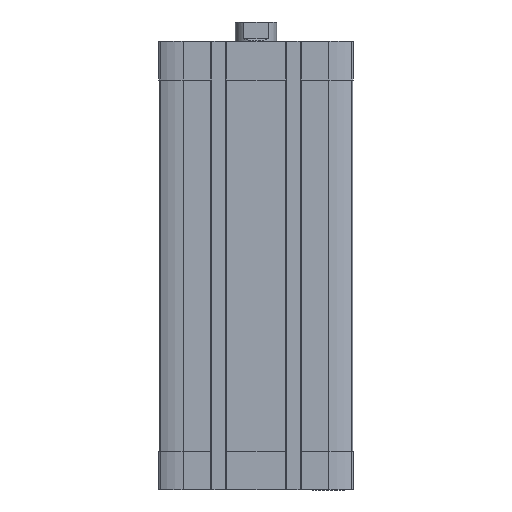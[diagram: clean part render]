
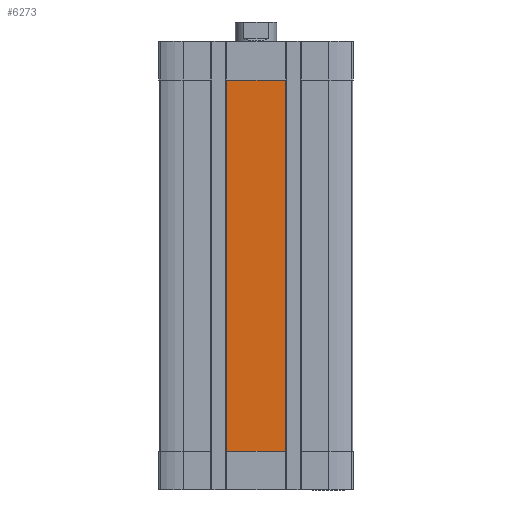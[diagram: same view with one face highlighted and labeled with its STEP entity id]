
A CAD part, front view. The second image highlights one B-rep face of the part: STEP entity #6273.
In plain terms, the highlighted planar face has unit normal (0, -1, 0).
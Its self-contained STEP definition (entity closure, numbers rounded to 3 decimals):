
#404 = VERTEX_POINT ( 'NONE', #6560 ) ;
#469 = EDGE_CURVE ( 'NONE', #1246, #404, #8658, .T. ) ;
#747 = FACE_OUTER_BOUND ( 'NONE', #7086, .T. ) ;
#1056 = ORIENTED_EDGE ( 'NONE', *, *, #9462, .T. ) ;
#1118 = AXIS2_PLACEMENT_3D ( 'NONE', #1195, #14214, #7382 ) ;
#1195 = CARTESIAN_POINT ( 'NONE',  ( -11.4, -37.5, -159. ) ) ;
#1246 = VERTEX_POINT ( 'NONE', #6328 ) ;
#1967 = VECTOR ( 'NONE', #7992, 1000. ) ;
#2343 = EDGE_CURVE ( 'NONE', #2600, #4409, #8767, .T. ) ;
#2600 = VERTEX_POINT ( 'NONE', #10592 ) ;
#3700 = PLANE ( 'NONE',  #1118 ) ;
#3837 = CARTESIAN_POINT ( 'NONE',  ( 11.4, -37.5, -159. ) ) ;
#4409 = VERTEX_POINT ( 'NONE', #15153 ) ;
#4555 = CARTESIAN_POINT ( 'NONE',  ( -11.4, -37.5, -159. ) ) ;
#4845 = DIRECTION ( 'NONE',  ( 1., 0., 0. ) ) ;
#5260 = CARTESIAN_POINT ( 'NONE',  ( 0., -37.5, -15. ) ) ;
#5608 = DIRECTION ( 'NONE',  ( -1., 0., 0. ) ) ;
#6273 = ADVANCED_FACE ( 'NONE', ( #747 ), #3700, .T. ) ;
#6328 = CARTESIAN_POINT ( 'NONE',  ( -11.4, -37.5, -159. ) ) ;
#6485 = ORIENTED_EDGE ( 'NONE', *, *, #469, .T. ) ;
#6560 = CARTESIAN_POINT ( 'NONE',  ( 11.4, -37.5, -159. ) ) ;
#7086 = EDGE_LOOP ( 'NONE', ( #6485, #10048, #11611, #1056 ) ) ;
#7336 = VECTOR ( 'NONE', #13254, 1000. ) ;
#7382 = DIRECTION ( 'NONE',  ( 0., 0., -1. ) ) ;
#7992 = DIRECTION ( 'NONE',  ( 0., 0., -1. ) ) ;
#8403 = VECTOR ( 'NONE', #5608, 1000. ) ;
#8424 = LINE ( 'NONE', #13692, #1967 ) ;
#8658 = LINE ( 'NONE', #4555, #14347 ) ;
#8675 = EDGE_CURVE ( 'NONE', #404, #2600, #10779, .T. ) ;
#8767 = LINE ( 'NONE', #5260, #8403 ) ;
#9462 = EDGE_CURVE ( 'NONE', #4409, #1246, #8424, .T. ) ;
#10048 = ORIENTED_EDGE ( 'NONE', *, *, #8675, .T. ) ;
#10592 = CARTESIAN_POINT ( 'NONE',  ( 11.4, -37.5, -15. ) ) ;
#10779 = LINE ( 'NONE', #3837, #7336 ) ;
#11611 = ORIENTED_EDGE ( 'NONE', *, *, #2343, .T. ) ;
#13254 = DIRECTION ( 'NONE',  ( 0., 0., 1. ) ) ;
#13692 = CARTESIAN_POINT ( 'NONE',  ( -11.4, -37.5, -159. ) ) ;
#14214 = DIRECTION ( 'NONE',  ( 0., -1., 0. ) ) ;
#14347 = VECTOR ( 'NONE', #4845, 1000. ) ;
#15153 = CARTESIAN_POINT ( 'NONE',  ( -11.4, -37.5, -15. ) ) ;
